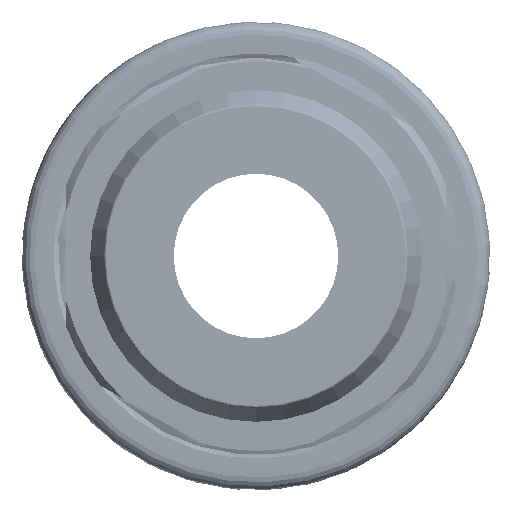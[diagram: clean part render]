
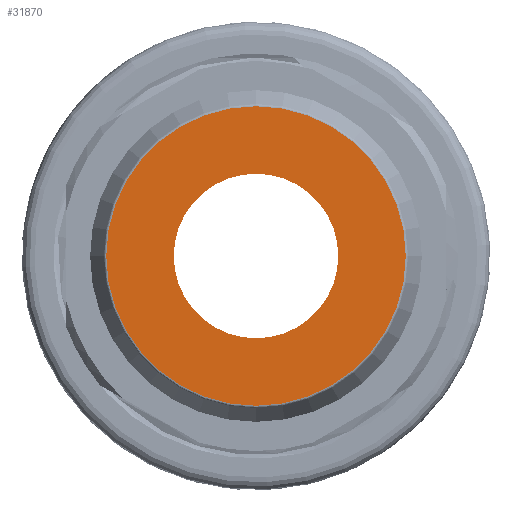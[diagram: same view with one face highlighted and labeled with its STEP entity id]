
A CAD part, front view. The second image highlights one B-rep face of the part: STEP entity #31870.
In plain terms, the highlighted planar face has unit normal (0, -1, 0).
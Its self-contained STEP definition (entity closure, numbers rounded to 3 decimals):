
#132 = CARTESIAN_POINT ( 'NONE',  ( -46.962, 0., -10.251 ) ) ;
#691 = DIRECTION ( 'NONE',  ( 0., 1., 0. ) ) ;
#1905 = AXIS2_PLACEMENT_3D ( 'NONE', #1998, #32073, #36603 ) ;
#1998 = CARTESIAN_POINT ( 'NONE',  ( -44.005, 0., -5.129 ) ) ;
#2426 = CARTESIAN_POINT ( 'NONE',  ( -41.047, 0., -0.007 ) ) ;
#2511 = FACE_BOUND ( 'NONE', #23973, .T. ) ;
#3976 = VERTEX_POINT ( 'NONE', #2426 ) ;
#5657 = AXIS2_PLACEMENT_3D ( 'NONE', #15017, #53779, #6866 ) ;
#6866 = DIRECTION ( 'NONE',  ( 0.5, 0., 0.866 ) ) ;
#7549 = ORIENTED_EDGE ( 'NONE', *, *, #53270, .T. ) ;
#8756 = DIRECTION ( 'NONE',  ( 0., -1., 0. ) ) ;
#9620 = DIRECTION ( 'NONE',  ( 0.5, 0., 0.866 ) ) ;
#10760 = DIRECTION ( 'NONE',  ( 0.5, 0., 0.866 ) ) ;
#12209 = VERTEX_POINT ( 'NONE', #25859 ) ;
#12580 = VERTEX_POINT ( 'NONE', #132 ) ;
#15017 = CARTESIAN_POINT ( 'NONE',  ( -44.005, 0., -5.129 ) ) ;
#15701 = DIRECTION ( 'NONE',  ( 0., 1., 0. ) ) ;
#16414 = ORIENTED_EDGE ( 'NONE', *, *, #29002, .T. ) ;
#20088 = ORIENTED_EDGE ( 'NONE', *, *, #20301, .T. ) ;
#20301 = EDGE_CURVE ( 'NONE', #3976, #12580, #44930, .T. ) ;
#23657 = EDGE_LOOP ( 'NONE', ( #20088, #47156 ) ) ;
#23690 = VERTEX_POINT ( 'NONE', #41861 ) ;
#23973 = EDGE_LOOP ( 'NONE', ( #7549, #16414 ) ) ;
#25859 = CARTESIAN_POINT ( 'NONE',  ( -45.63, 0., -7.944 ) ) ;
#28751 = AXIS2_PLACEMENT_3D ( 'NONE', #30097, #8756, #29543 ) ;
#29002 = EDGE_CURVE ( 'NONE', #23690, #12209, #37665, .T. ) ;
#29543 = DIRECTION ( 'NONE',  ( 0.5, 0., 0.866 ) ) ;
#30097 = CARTESIAN_POINT ( 'NONE',  ( -44.005, 0., -5.129 ) ) ;
#30971 = PLANE ( 'NONE',  #43278 ) ;
#31646 = AXIS2_PLACEMENT_3D ( 'NONE', #45179, #15701, #10760 ) ;
#31870 = ADVANCED_FACE ( 'NONE', ( #37024, #2511 ), #30971, .F. ) ;
#32073 = DIRECTION ( 'NONE',  ( 0., -1., 0. ) ) ;
#35143 = CARTESIAN_POINT ( 'NONE',  ( -44.005, 0., -5.129 ) ) ;
#36603 = DIRECTION ( 'NONE',  ( 0.5, 0., 0.866 ) ) ;
#37024 = FACE_OUTER_BOUND ( 'NONE', #23657, .T. ) ;
#37665 = CIRCLE ( 'NONE', #31646, 3.25 ) ;
#38262 = CIRCLE ( 'NONE', #28751, 5.915 ) ;
#39102 = EDGE_CURVE ( 'NONE', #12580, #3976, #38262, .T. ) ;
#41861 = CARTESIAN_POINT ( 'NONE',  ( -42.38, 0., -2.314 ) ) ;
#42954 = CIRCLE ( 'NONE', #5657, 3.25 ) ;
#43278 = AXIS2_PLACEMENT_3D ( 'NONE', #35143, #691, #9620 ) ;
#44930 = CIRCLE ( 'NONE', #1905, 5.915 ) ;
#45179 = CARTESIAN_POINT ( 'NONE',  ( -44.005, 0., -5.129 ) ) ;
#47156 = ORIENTED_EDGE ( 'NONE', *, *, #39102, .T. ) ;
#53270 = EDGE_CURVE ( 'NONE', #12209, #23690, #42954, .T. ) ;
#53779 = DIRECTION ( 'NONE',  ( 0., 1., 0. ) ) ;
